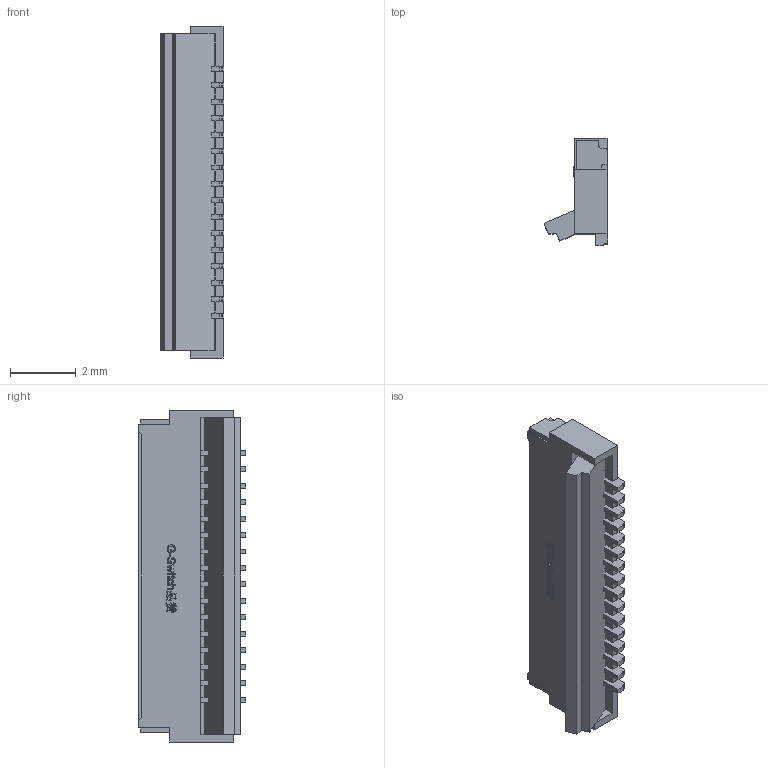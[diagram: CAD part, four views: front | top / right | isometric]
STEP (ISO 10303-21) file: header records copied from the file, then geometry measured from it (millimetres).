
FILE_DESCRIPTION (( 'STEP AP203' ), '1' );
FILE_NAME ('GT-F0508SR10-XXS0101.STEP', '2023-12-27T08:02:36', ( 'Microsoft' ), ( 'Microsoft' ), 'SwSTEP 2.0', 'SolidWorks 2023', '' );
FILE_SCHEMA (( 'CONFIG_CONTROL_DESIGN' ));
Length unit declared in the file: millimetre
Products named in the file (1): GT-F0508SR10-XXS0101
Bounding box: 1.94 x 3.26 x 10.09 mm (x, y, z)
Volume: 26.1 mm3; surface area: 159.6 mm2
Topology: 1 solids, 1 shells, 944 faces, 2906 edges, 1934 vertices
Faces by surface type: plane 638, cylinder 232, bspline 74
Entity records: 36071 total; most frequent: CARTESIAN_POINT 9923, ORIENTED_EDGE 5812, DIRECTION 4968, EDGE_CURVE 2906, VECTOR 2290, LINE 2290, VERTEX_POINT 1934, AXIS2_PLACEMENT_3D 1339
